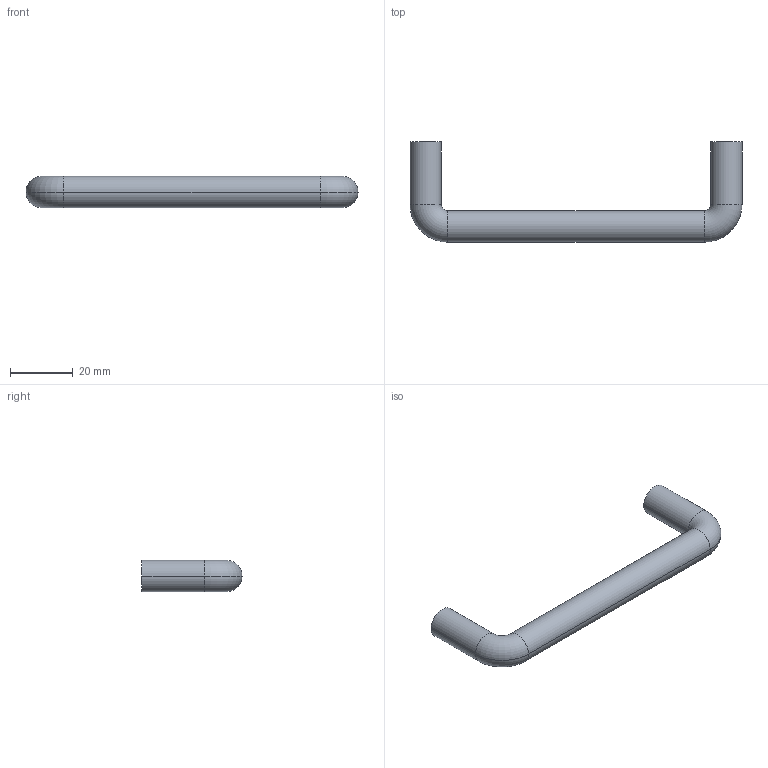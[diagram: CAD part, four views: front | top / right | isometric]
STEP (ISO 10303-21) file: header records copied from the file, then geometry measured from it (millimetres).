
FILE_DESCRIPTION( ( '' ), '1' );
FILE_NAME( 'C:/Documents and Settings/Sachin/Desktop/Sheet 10_1/stp/9069815.stp', '2013-10-22T08:22:50', ( '' ), ( '' ), ' ', ' ', ' ' );
FILE_SCHEMA( ( 'CONFIG_CONTROL_DESIGN' ) );
Length unit declared in the file: millimetre
Products named in the file (1): 1
Bounding box: 106 x 32 x 10 mm (x, y, z)
Volume: 11057.7 mm3; surface area: 4932 mm2
Topology: 1 solids, 1 shells, 18 faces, 34 edges, 20 vertices
Faces by surface type: cylinder 10, torus 4, plane 4
Entity records: 502 total; most frequent: DIRECTION 96, CARTESIAN_POINT 73, ORIENTED_EDGE 68, AXIS2_PLACEMENT_3D 43, EDGE_CURVE 34, CIRCLE 24, EDGE_LOOP 20, VERTEX_POINT 20
